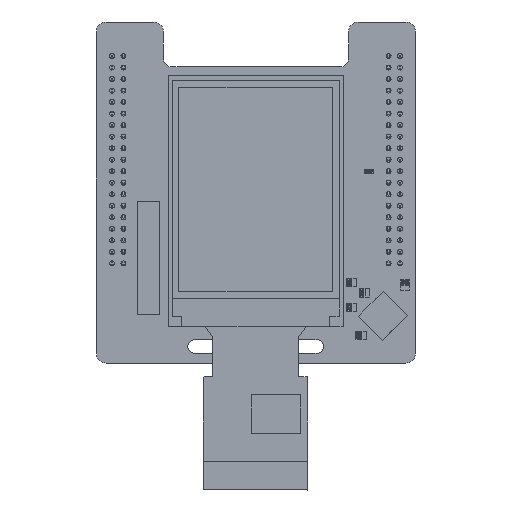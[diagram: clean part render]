
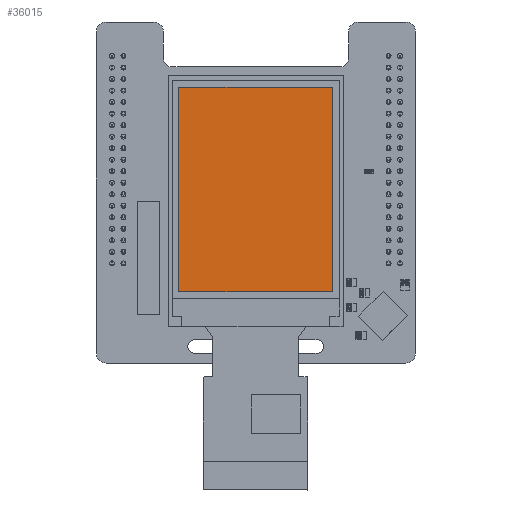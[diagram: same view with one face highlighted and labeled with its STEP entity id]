
A CAD part, top view. The second image highlights one B-rep face of the part: STEP entity #36015.
In plain terms, the highlighted planar face has unit normal (0, 0, 1).
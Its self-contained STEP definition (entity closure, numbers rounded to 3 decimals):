
#35886 = VERTEX_POINT('',#35887);
#35887 = CARTESIAN_POINT('',(-16.92,22.56,1.8));
#35893 = EDGE_CURVE('',#35886,#35894,#35896,.T.);
#35894 = VERTEX_POINT('',#35895);
#35895 = CARTESIAN_POINT('',(-16.92,-22.56,1.8));
#35896 = LINE('',#35897,#35898);
#35897 = CARTESIAN_POINT('',(-16.92,22.56,1.8));
#35898 = VECTOR('',#35899,1.);
#35899 = DIRECTION('',(0.,-1.,0.));
#35924 = EDGE_CURVE('',#35894,#35925,#35927,.T.);
#35925 = VERTEX_POINT('',#35926);
#35926 = CARTESIAN_POINT('',(16.92,-22.56,1.8));
#35927 = LINE('',#35928,#35929);
#35928 = CARTESIAN_POINT('',(-16.92,-22.56,1.8));
#35929 = VECTOR('',#35930,1.);
#35930 = DIRECTION('',(1.,0.,0.));
#35955 = EDGE_CURVE('',#35925,#35956,#35958,.T.);
#35956 = VERTEX_POINT('',#35957);
#35957 = CARTESIAN_POINT('',(16.92,22.56,1.8));
#35958 = LINE('',#35959,#35960);
#35959 = CARTESIAN_POINT('',(16.92,-22.56,1.8));
#35960 = VECTOR('',#35961,1.);
#35961 = DIRECTION('',(0.,1.,0.));
#35986 = EDGE_CURVE('',#35956,#35886,#35987,.T.);
#35987 = LINE('',#35988,#35989);
#35988 = CARTESIAN_POINT('',(16.92,22.56,1.8));
#35989 = VECTOR('',#35990,1.);
#35990 = DIRECTION('',(-1.,0.,0.));
#36015 = ADVANCED_FACE('',(#36016),#36022,.F.);
#36016 = FACE_BOUND('',#36017,.T.);
#36017 = EDGE_LOOP('',(#36018,#36019,#36020,#36021));
#36018 = ORIENTED_EDGE('',*,*,#35893,.T.);
#36019 = ORIENTED_EDGE('',*,*,#35924,.T.);
#36020 = ORIENTED_EDGE('',*,*,#35955,.T.);
#36021 = ORIENTED_EDGE('',*,*,#35986,.T.);
#36022 = PLANE('',#36023);
#36023 = AXIS2_PLACEMENT_3D('',#36024,#36025,#36026);
#36024 = CARTESIAN_POINT('',(-16.92,22.56,1.8));
#36025 = DIRECTION('',(0.,0.,-1.));
#36026 = DIRECTION('',(-1.,0.,0.));
